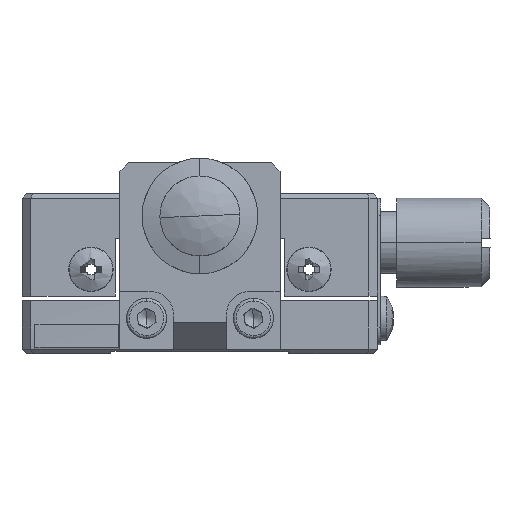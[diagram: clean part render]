
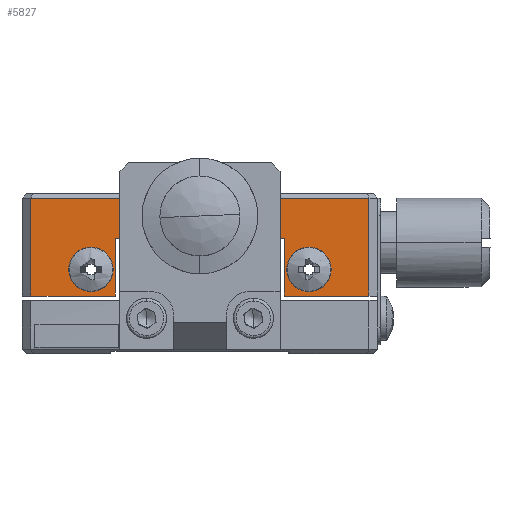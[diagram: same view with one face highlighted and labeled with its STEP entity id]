
A CAD part, left-side view. The second image highlights one B-rep face of the part: STEP entity #5827.
In plain terms, the highlighted planar face has unit normal (1, 0, 0).
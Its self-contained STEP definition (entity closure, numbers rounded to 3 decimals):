
#222 = VERTEX_POINT ( 'NONE', #10605 ) ;
#250 = CARTESIAN_POINT ( 'NONE',  ( -65., -64., 6.2 ) ) ;
#251 = ORIENTED_EDGE ( 'NONE', *, *, #2167, .F. ) ;
#379 = VECTOR ( 'NONE', #12126, 1000. ) ;
#433 = VERTEX_POINT ( 'NONE', #10264 ) ;
#615 = PLANE ( 'NONE',  #2203 ) ;
#831 = VECTOR ( 'NONE', #8475, 1000. ) ;
#985 = CARTESIAN_POINT ( 'NONE',  ( -65., -32.75, 9.2 ) ) ;
#1114 = CARTESIAN_POINT ( 'NONE',  ( -65., -64., 17.2 ) ) ;
#1172 = LINE ( 'NONE', #4064, #831 ) ;
#1198 = CARTESIAN_POINT ( 'NONE',  ( -65., -54.75, 9.2 ) ) ;
#1290 = DIRECTION ( 'NONE',  ( 1., 0., 0. ) ) ;
#1477 = CARTESIAN_POINT ( 'NONE',  ( -65., -54.5, 6.2 ) ) ;
#1727 = VERTEX_POINT ( 'NONE', #9448 ) ;
#2120 = CARTESIAN_POINT ( 'NONE',  ( -65., -35.5, 6.2 ) ) ;
#2167 = EDGE_CURVE ( 'NONE', #13828, #14379, #9271, .T. ) ;
#2203 = AXIS2_PLACEMENT_3D ( 'NONE', #6230, #13988, #8491 ) ;
#2324 = CARTESIAN_POINT ( 'NONE',  ( -65., -26., 17.2 ) ) ;
#2778 = VERTEX_POINT ( 'NONE', #2846 ) ;
#2846 = CARTESIAN_POINT ( 'NONE',  ( -65., -35.5, 12.7 ) ) ;
#2932 = CIRCLE ( 'NONE', #5502, 2.5 ) ;
#2945 = AXIS2_PLACEMENT_3D ( 'NONE', #12075, #7469, #7604 ) ;
#3018 = CIRCLE ( 'NONE', #7313, 2.5 ) ;
#3067 = AXIS2_PLACEMENT_3D ( 'NONE', #985, #7906, #8506 ) ;
#3071 = EDGE_CURVE ( 'NONE', #5259, #433, #13951, .T. ) ;
#3207 = VECTOR ( 'NONE', #5052, 1000. ) ;
#3353 = LINE ( 'NONE', #2120, #379 ) ;
#3540 = CARTESIAN_POINT ( 'NONE',  ( -65., -26., 6.2 ) ) ;
#3605 = FACE_OUTER_BOUND ( 'NONE', #4259, .T. ) ;
#3685 = VERTEX_POINT ( 'NONE', #1198 ) ;
#3957 = ORIENTED_EDGE ( 'NONE', *, *, #9165, .F. ) ;
#4027 = CARTESIAN_POINT ( 'NONE',  ( -65., -64., 12.7 ) ) ;
#4064 = CARTESIAN_POINT ( 'NONE',  ( -65., -64., 6.2 ) ) ;
#4259 = EDGE_LOOP ( 'NONE', ( #14395, #6566, #13957, #251, #6007, #5746, #12009, #4288 ) ) ;
#4288 = ORIENTED_EDGE ( 'NONE', *, *, #9047, .F. ) ;
#4315 = FACE_BOUND ( 'NONE', #8799, .T. ) ;
#4774 = VERTEX_POINT ( 'NONE', #3540 ) ;
#4787 = DIRECTION ( 'NONE',  ( 1., 0., 0. ) ) ;
#4788 = VECTOR ( 'NONE', #9385, 1000. ) ;
#4801 = CARTESIAN_POINT ( 'NONE',  ( -65., -30.25, 9.2 ) ) ;
#5052 = DIRECTION ( 'NONE',  ( 0., -1., 0. ) ) ;
#5259 = VERTEX_POINT ( 'NONE', #4801 ) ;
#5502 = AXIS2_PLACEMENT_3D ( 'NONE', #6916, #1290, #8141 ) ;
#5746 = ORIENTED_EDGE ( 'NONE', *, *, #8229, .F. ) ;
#5827 = ADVANCED_FACE ( 'NONE', ( #3605, #4315, #6244 ), #615, .F. ) ;
#6007 = ORIENTED_EDGE ( 'NONE', *, *, #12333, .F. ) ;
#6056 = DIRECTION ( 'NONE',  ( 0., -1., 0. ) ) ;
#6230 = CARTESIAN_POINT ( 'NONE',  ( -65., -64., 6.2 ) ) ;
#6244 = FACE_BOUND ( 'NONE', #11373, .T. ) ;
#6365 = LINE ( 'NONE', #4027, #3207 ) ;
#6566 = ORIENTED_EDGE ( 'NONE', *, *, #8981, .F. ) ;
#6667 = CARTESIAN_POINT ( 'NONE',  ( -65., -54.5, 6.2 ) ) ;
#6916 = CARTESIAN_POINT ( 'NONE',  ( -65., -32.75, 9.2 ) ) ;
#7245 = CARTESIAN_POINT ( 'NONE',  ( -65., -64., 17.2 ) ) ;
#7313 = AXIS2_PLACEMENT_3D ( 'NONE', #10516, #4787, #6056 ) ;
#7469 = DIRECTION ( 'NONE',  ( 1., 0., 0. ) ) ;
#7578 = ORIENTED_EDGE ( 'NONE', *, *, #13107, .F. ) ;
#7604 = DIRECTION ( 'NONE',  ( 0., -1., 0. ) ) ;
#7727 = DIRECTION ( 'NONE',  ( 0., 0., -1. ) ) ;
#7906 = DIRECTION ( 'NONE',  ( 1., 0., 0. ) ) ;
#8141 = DIRECTION ( 'NONE',  ( 0., -1., 0. ) ) ;
#8229 = EDGE_CURVE ( 'NONE', #1727, #8451, #11270, .T. ) ;
#8451 = VERTEX_POINT ( 'NONE', #6667 ) ;
#8475 = DIRECTION ( 'NONE',  ( 0., -1., 0. ) ) ;
#8491 = DIRECTION ( 'NONE',  ( 0., 0., 1. ) ) ;
#8506 = DIRECTION ( 'NONE',  ( 0., -1., 0. ) ) ;
#8799 = EDGE_LOOP ( 'NONE', ( #7578, #14417 ) ) ;
#8819 = EDGE_CURVE ( 'NONE', #2778, #1727, #6365, .T. ) ;
#8876 = EDGE_CURVE ( 'NONE', #13100, #3685, #10916, .T. ) ;
#8885 = CARTESIAN_POINT ( 'NONE',  ( -65., -64., 6.2 ) ) ;
#8981 = EDGE_CURVE ( 'NONE', #10298, #4774, #10557, .T. ) ;
#9047 = EDGE_CURVE ( 'NONE', #222, #2778, #3353, .T. ) ;
#9165 = EDGE_CURVE ( 'NONE', #3685, #13100, #3018, .T. ) ;
#9230 = DIRECTION ( 'NONE',  ( 0., 0., 1. ) ) ;
#9271 = LINE ( 'NONE', #250, #14154 ) ;
#9385 = DIRECTION ( 'NONE',  ( 0., 0., -1. ) ) ;
#9448 = CARTESIAN_POINT ( 'NONE',  ( -65., -54.5, 12.7 ) ) ;
#10004 = CARTESIAN_POINT ( 'NONE',  ( -65., -64., 6.2 ) ) ;
#10264 = CARTESIAN_POINT ( 'NONE',  ( -65., -35.25, 9.2 ) ) ;
#10298 = VERTEX_POINT ( 'NONE', #2324 ) ;
#10328 = LINE ( 'NONE', #8885, #11036 ) ;
#10516 = CARTESIAN_POINT ( 'NONE',  ( -65., -57.25, 9.2 ) ) ;
#10557 = LINE ( 'NONE', #13377, #12640 ) ;
#10605 = CARTESIAN_POINT ( 'NONE',  ( -65., -35.5, 6.2 ) ) ;
#10916 = CIRCLE ( 'NONE', #2945, 2.5 ) ;
#10962 = EDGE_CURVE ( 'NONE', #4774, #222, #10328, .T. ) ;
#11036 = VECTOR ( 'NONE', #11130, 1000. ) ;
#11130 = DIRECTION ( 'NONE',  ( 0., -1., 0. ) ) ;
#11155 = EDGE_CURVE ( 'NONE', #10298, #14379, #14004, .T. ) ;
#11270 = LINE ( 'NONE', #1477, #4788 ) ;
#11373 = EDGE_LOOP ( 'NONE', ( #11760, #3957 ) ) ;
#11760 = ORIENTED_EDGE ( 'NONE', *, *, #8876, .F. ) ;
#12003 = DIRECTION ( 'NONE',  ( 0., -1., 0. ) ) ;
#12009 = ORIENTED_EDGE ( 'NONE', *, *, #8819, .F. ) ;
#12075 = CARTESIAN_POINT ( 'NONE',  ( -65., -57.25, 9.2 ) ) ;
#12126 = DIRECTION ( 'NONE',  ( 0., 0., 1. ) ) ;
#12333 = EDGE_CURVE ( 'NONE', #8451, #13828, #1172, .T. ) ;
#12640 = VECTOR ( 'NONE', #7727, 1000. ) ;
#12706 = CARTESIAN_POINT ( 'NONE',  ( -65., -59.75, 9.2 ) ) ;
#13100 = VERTEX_POINT ( 'NONE', #12706 ) ;
#13107 = EDGE_CURVE ( 'NONE', #433, #5259, #2932, .T. ) ;
#13377 = CARTESIAN_POINT ( 'NONE',  ( -65., -26., 6.2 ) ) ;
#13828 = VERTEX_POINT ( 'NONE', #10004 ) ;
#13951 = CIRCLE ( 'NONE', #3067, 2.5 ) ;
#13957 = ORIENTED_EDGE ( 'NONE', *, *, #11155, .T. ) ;
#13988 = DIRECTION ( 'NONE',  ( -1., 0., 0. ) ) ;
#14004 = LINE ( 'NONE', #7245, #14499 ) ;
#14154 = VECTOR ( 'NONE', #9230, 1000. ) ;
#14379 = VERTEX_POINT ( 'NONE', #1114 ) ;
#14395 = ORIENTED_EDGE ( 'NONE', *, *, #10962, .F. ) ;
#14417 = ORIENTED_EDGE ( 'NONE', *, *, #3071, .F. ) ;
#14499 = VECTOR ( 'NONE', #12003, 1000. ) ;
